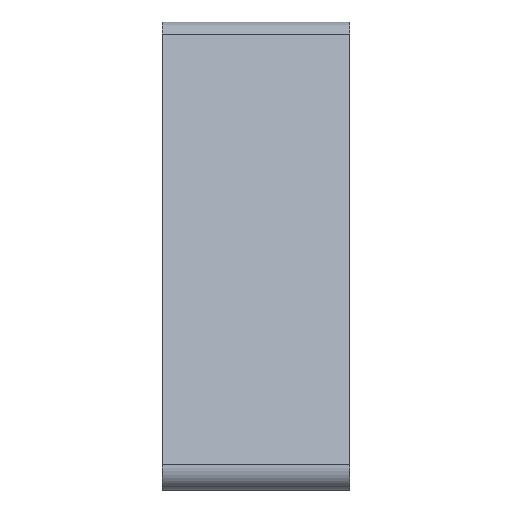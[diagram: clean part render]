
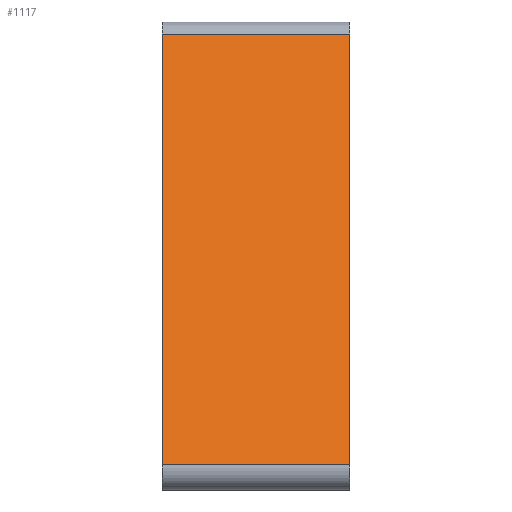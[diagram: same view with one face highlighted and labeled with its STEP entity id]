
A CAD part, front view. The second image highlights one B-rep face of the part: STEP entity #1117.
In plain terms, the highlighted planar face has unit normal (0, -0.94, 0.342).
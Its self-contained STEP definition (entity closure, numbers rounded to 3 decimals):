
#44 = PLANE('',#45);
#45 = AXIS2_PLACEMENT_3D('',#46,#47,#48);
#46 = CARTESIAN_POINT('',(75.,57.495,45.082));
#47 = DIRECTION('',(1.,0.,0.));
#48 = DIRECTION('',(-0.,0.,1.));
#72 = CYLINDRICAL_SURFACE('',#73,4.);
#73 = AXIS2_PLACEMENT_3D('',#74,#75,#76);
#74 = CARTESIAN_POINT('',(75.,5.713,4.));
#75 = DIRECTION('',(1.,0.,0.));
#76 = DIRECTION('',(0.,0.,-1.));
#100 = PLANE('',#101);
#101 = AXIS2_PLACEMENT_3D('',#102,#103,#104);
#102 = CARTESIAN_POINT('',(115.,57.495,45.082));
#103 = DIRECTION('',(1.,0.,0.));
#104 = DIRECTION('',(-0.,0.,1.));
#252 = VERTEX_POINT('',#253);
#253 = CARTESIAN_POINT('',(75.,35.439,97.368));
#268 = CYLINDRICAL_SURFACE('',#269,4.);
#269 = AXIS2_PLACEMENT_3D('',#270,#271,#272);
#270 = CARTESIAN_POINT('',(75.,39.198,96.));
#271 = DIRECTION('',(1.,0.,0.));
#272 = DIRECTION('',(0.,-0.,1.));
#280 = EDGE_CURVE('',#252,#281,#283,.T.);
#281 = VERTEX_POINT('',#282);
#282 = CARTESIAN_POINT('',(75.,1.954,5.368));
#283 = SURFACE_CURVE('',#284,(#288,#295),.PCURVE_S1.);
#284 = LINE('',#285,#286);
#285 = CARTESIAN_POINT('',(75.,36.397,100.));
#286 = VECTOR('',#287,1.);
#287 = DIRECTION('',(0.,-0.342,-0.94));
#288 = PCURVE('',#44,#289);
#289 = DEFINITIONAL_REPRESENTATION('',(#290),#294);
#290 = LINE('',#291,#292);
#291 = CARTESIAN_POINT('',(54.918,21.098));
#292 = VECTOR('',#293,1.);
#293 = DIRECTION('',(-0.94,0.342));
#294 = ( GEOMETRIC_REPRESENTATION_CONTEXT(2) 
PARAMETRIC_REPRESENTATION_CONTEXT() REPRESENTATION_CONTEXT('2D SPACE',''
  ) );
#295 = PCURVE('',#296,#301);
#296 = PLANE('',#297);
#297 = AXIS2_PLACEMENT_3D('',#298,#299,#300);
#298 = CARTESIAN_POINT('',(75.,36.397,100.));
#299 = DIRECTION('',(0.,0.94,-0.342));
#300 = DIRECTION('',(0.,-0.342,-0.94));
#301 = DEFINITIONAL_REPRESENTATION('',(#302),#306);
#302 = LINE('',#303,#304);
#303 = CARTESIAN_POINT('',(0.,0.));
#304 = VECTOR('',#305,1.);
#305 = DIRECTION('',(1.,0.));
#306 = ( GEOMETRIC_REPRESENTATION_CONTEXT(2) 
PARAMETRIC_REPRESENTATION_CONTEXT() REPRESENTATION_CONTEXT('2D SPACE',''
  ) );
#443 = EDGE_CURVE('',#281,#444,#446,.T.);
#444 = VERTEX_POINT('',#445);
#445 = CARTESIAN_POINT('',(115.,1.954,5.368));
#446 = SURFACE_CURVE('',#447,(#451,#458),.PCURVE_S1.);
#447 = LINE('',#448,#449);
#448 = CARTESIAN_POINT('',(75.,1.954,5.368));
#449 = VECTOR('',#450,1.);
#450 = DIRECTION('',(1.,0.,0.));
#451 = PCURVE('',#72,#452);
#452 = DEFINITIONAL_REPRESENTATION('',(#453),#457);
#453 = LINE('',#454,#455);
#454 = CARTESIAN_POINT('',(-1.92,0.));
#455 = VECTOR('',#456,1.);
#456 = DIRECTION('',(-0.,1.));
#457 = ( GEOMETRIC_REPRESENTATION_CONTEXT(2) 
PARAMETRIC_REPRESENTATION_CONTEXT() REPRESENTATION_CONTEXT('2D SPACE',''
  ) );
#458 = PCURVE('',#296,#459);
#459 = DEFINITIONAL_REPRESENTATION('',(#460),#464);
#460 = LINE('',#461,#462);
#461 = CARTESIAN_POINT('',(100.705,0.));
#462 = VECTOR('',#463,1.);
#463 = DIRECTION('',(0.,-1.));
#464 = ( GEOMETRIC_REPRESENTATION_CONTEXT(2) 
PARAMETRIC_REPRESENTATION_CONTEXT() REPRESENTATION_CONTEXT('2D SPACE',''
  ) );
#619 = VERTEX_POINT('',#620);
#620 = CARTESIAN_POINT('',(115.,35.439,97.368));
#642 = EDGE_CURVE('',#619,#444,#643,.T.);
#643 = SURFACE_CURVE('',#644,(#648,#655),.PCURVE_S1.);
#644 = LINE('',#645,#646);
#645 = CARTESIAN_POINT('',(115.,36.397,100.));
#646 = VECTOR('',#647,1.);
#647 = DIRECTION('',(0.,-0.342,-0.94));
#648 = PCURVE('',#100,#649);
#649 = DEFINITIONAL_REPRESENTATION('',(#650),#654);
#650 = LINE('',#651,#652);
#651 = CARTESIAN_POINT('',(54.918,21.098));
#652 = VECTOR('',#653,1.);
#653 = DIRECTION('',(-0.94,0.342));
#654 = ( GEOMETRIC_REPRESENTATION_CONTEXT(2) 
PARAMETRIC_REPRESENTATION_CONTEXT() REPRESENTATION_CONTEXT('2D SPACE',''
  ) );
#655 = PCURVE('',#296,#656);
#656 = DEFINITIONAL_REPRESENTATION('',(#657),#661);
#657 = LINE('',#658,#659);
#658 = CARTESIAN_POINT('',(0.,-40.));
#659 = VECTOR('',#660,1.);
#660 = DIRECTION('',(1.,0.));
#661 = ( GEOMETRIC_REPRESENTATION_CONTEXT(2) 
PARAMETRIC_REPRESENTATION_CONTEXT() REPRESENTATION_CONTEXT('2D SPACE',''
  ) );
#1117 = ADVANCED_FACE('',(#1118),#296,.F.);
#1118 = FACE_BOUND('',#1119,.F.);
#1119 = EDGE_LOOP('',(#1120,#1121,#1142,#1143));
#1120 = ORIENTED_EDGE('',*,*,#280,.F.);
#1121 = ORIENTED_EDGE('',*,*,#1122,.T.);
#1122 = EDGE_CURVE('',#252,#619,#1123,.T.);
#1123 = SURFACE_CURVE('',#1124,(#1128,#1135),.PCURVE_S1.);
#1124 = LINE('',#1125,#1126);
#1125 = CARTESIAN_POINT('',(75.,35.439,97.368));
#1126 = VECTOR('',#1127,1.);
#1127 = DIRECTION('',(1.,0.,0.));
#1128 = PCURVE('',#296,#1129);
#1129 = DEFINITIONAL_REPRESENTATION('',(#1130),#1134);
#1130 = LINE('',#1131,#1132);
#1131 = CARTESIAN_POINT('',(2.801,0.));
#1132 = VECTOR('',#1133,1.);
#1133 = DIRECTION('',(0.,-1.));
#1134 = ( GEOMETRIC_REPRESENTATION_CONTEXT(2) 
PARAMETRIC_REPRESENTATION_CONTEXT() REPRESENTATION_CONTEXT('2D SPACE',''
  ) );
#1135 = PCURVE('',#268,#1136);
#1136 = DEFINITIONAL_REPRESENTATION('',(#1137),#1141);
#1137 = LINE('',#1138,#1139);
#1138 = CARTESIAN_POINT('',(1.222,0.));
#1139 = VECTOR('',#1140,1.);
#1140 = DIRECTION('',(0.,1.));
#1141 = ( GEOMETRIC_REPRESENTATION_CONTEXT(2) 
PARAMETRIC_REPRESENTATION_CONTEXT() REPRESENTATION_CONTEXT('2D SPACE',''
  ) );
#1142 = ORIENTED_EDGE('',*,*,#642,.T.);
#1143 = ORIENTED_EDGE('',*,*,#443,.F.);
